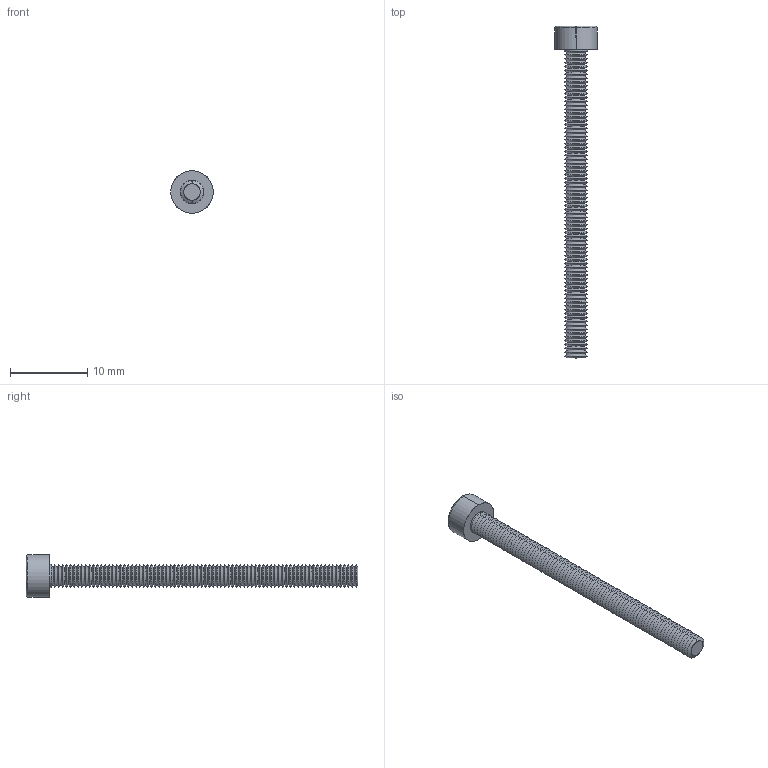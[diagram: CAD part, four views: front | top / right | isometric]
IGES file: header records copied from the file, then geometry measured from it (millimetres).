
Start section: SolidWorks IGES file using analytic representation for surfaces
Global section: file name: C:\Users\ianosborn\Desktop\N0007.91N_v2\N0007.91N_v2_20250519_IGES\91N.030.0400.igs; native system: SolidWorks 2019; preprocessor: SolidWorks 2019; author: IanOsborn; date: 250520.095014; units: millimetre
Bounding box: 5.5 x 43 x 5.5 mm (x, y, z)
Surface area: 759.6 mm2 (no closed solid volume)
Topology: 0 solids, 0 shells, 348 faces, 1577 edges, 1575 vertices
Faces by surface type: revolution 331, bspline 17
